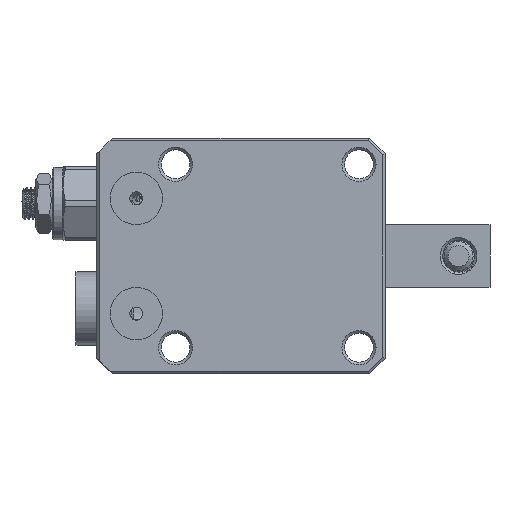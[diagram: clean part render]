
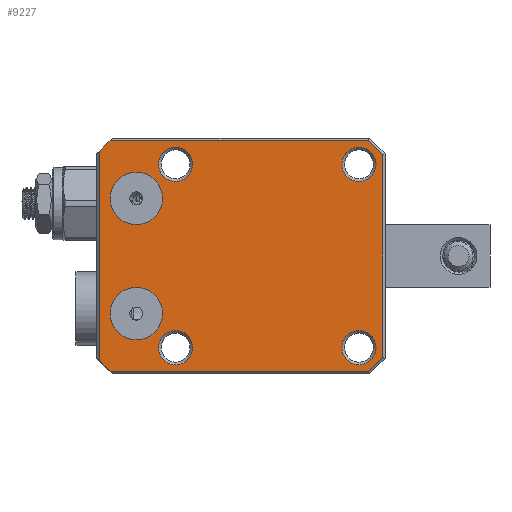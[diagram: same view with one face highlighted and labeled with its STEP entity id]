
A CAD part, front view. The second image highlights one B-rep face of the part: STEP entity #9227.
In plain terms, the highlighted planar face has unit normal (0, -1, 0).
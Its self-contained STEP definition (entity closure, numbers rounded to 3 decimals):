
#662=FACE_BOUND('',#1518,.T.);
#663=FACE_BOUND('',#1519,.T.);
#664=FACE_BOUND('',#1520,.T.);
#665=FACE_BOUND('',#1521,.T.);
#666=FACE_BOUND('',#1522,.T.);
#667=FACE_BOUND('',#1523,.T.);
#752=PLANE('',#10066);
#961=FACE_OUTER_BOUND('',#1517,.T.);
#1517=EDGE_LOOP('',(#6482,#6483,#6484,#6485,#6486,#6487,#6488,#6489));
#1518=EDGE_LOOP('',(#6490));
#1519=EDGE_LOOP('',(#6491));
#1520=EDGE_LOOP('',(#6492));
#1521=EDGE_LOOP('',(#6493));
#1522=EDGE_LOOP('',(#6494));
#1523=EDGE_LOOP('',(#6495));
#2137=LINE('',#14196,#2749);
#2142=LINE('',#14206,#2754);
#2165=LINE('',#14259,#2777);
#2184=LINE('',#14299,#2796);
#2185=LINE('',#14301,#2797);
#2186=LINE('',#14302,#2798);
#2187=LINE('',#14303,#2799);
#2188=LINE('',#14304,#2800);
#2749=VECTOR('',#11263,1000.);
#2754=VECTOR('',#11272,1000.);
#2777=VECTOR('',#11321,1000.);
#2796=VECTOR('',#11354,1000.);
#2797=VECTOR('',#11355,1000.);
#2798=VECTOR('',#11356,1000.);
#2799=VECTOR('',#11357,1000.);
#2800=VECTOR('',#11358,1000.);
#3322=CIRCLE('',#9982,5.);
#3324=CIRCLE('',#9985,5.);
#3326=CIRCLE('',#9988,3.25);
#3328=CIRCLE('',#9991,3.25);
#3330=CIRCLE('',#9994,3.25);
#3333=CIRCLE('',#9998,3.25);
#3811=VERTEX_POINT('',#13842);
#3813=VERTEX_POINT('',#13848);
#3816=VERTEX_POINT('',#13855);
#3817=VERTEX_POINT('',#13860);
#3820=VERTEX_POINT('',#13867);
#3823=VERTEX_POINT('',#13875);
#3880=VERTEX_POINT('',#14188);
#3883=VERTEX_POINT('',#14194);
#3885=VERTEX_POINT('',#14202);
#3886=VERTEX_POINT('',#14204);
#3903=VERTEX_POINT('',#14258);
#3916=VERTEX_POINT('',#14297);
#3917=VERTEX_POINT('',#14298);
#3918=VERTEX_POINT('',#14300);
#4755=EDGE_CURVE('',#3811,#3811,#3322,.T.);
#4758=EDGE_CURVE('',#3813,#3813,#3324,.T.);
#4761=EDGE_CURVE('',#3816,#3816,#3326,.T.);
#4764=EDGE_CURVE('',#3817,#3817,#3328,.T.);
#4767=EDGE_CURVE('',#3820,#3820,#3330,.T.);
#4771=EDGE_CURVE('',#3823,#3823,#3333,.T.);
#4859=EDGE_CURVE('',#3880,#3883,#2137,.T.);
#4864=EDGE_CURVE('',#3886,#3885,#2142,.T.);
#4890=EDGE_CURVE('',#3903,#3886,#2165,.T.);
#4910=EDGE_CURVE('',#3916,#3917,#2184,.T.);
#4911=EDGE_CURVE('',#3917,#3918,#2185,.T.);
#4912=EDGE_CURVE('',#3918,#3880,#2186,.T.);
#4913=EDGE_CURVE('',#3883,#3885,#2187,.T.);
#4914=EDGE_CURVE('',#3903,#3916,#2188,.T.);
#6482=ORIENTED_EDGE('',*,*,#4910,.T.);
#6483=ORIENTED_EDGE('',*,*,#4911,.T.);
#6484=ORIENTED_EDGE('',*,*,#4912,.T.);
#6485=ORIENTED_EDGE('',*,*,#4859,.T.);
#6486=ORIENTED_EDGE('',*,*,#4913,.T.);
#6487=ORIENTED_EDGE('',*,*,#4864,.F.);
#6488=ORIENTED_EDGE('',*,*,#4890,.F.);
#6489=ORIENTED_EDGE('',*,*,#4914,.T.);
#6490=ORIENTED_EDGE('',*,*,#4755,.T.);
#6491=ORIENTED_EDGE('',*,*,#4758,.T.);
#6492=ORIENTED_EDGE('',*,*,#4761,.T.);
#6493=ORIENTED_EDGE('',*,*,#4764,.T.);
#6494=ORIENTED_EDGE('',*,*,#4767,.T.);
#6495=ORIENTED_EDGE('',*,*,#4771,.T.);
#9227=ADVANCED_FACE('',(#961,#662,#663,#664,#665,#666,#667),#752,.T.);
#9982=AXIS2_PLACEMENT_3D('',#13844,#11076,#11077);
#9985=AXIS2_PLACEMENT_3D('',#13850,#11083,#11084);
#9988=AXIS2_PLACEMENT_3D('',#13857,#11090,#11091);
#9991=AXIS2_PLACEMENT_3D('',#13862,#11097,#11098);
#9994=AXIS2_PLACEMENT_3D('',#13869,#11104,#11105);
#9998=AXIS2_PLACEMENT_3D('',#13877,#11113,#11114);
#10066=AXIS2_PLACEMENT_3D('',#14296,#11352,#11353);
#11076=DIRECTION('center_axis',(0.,1.,0.));
#11077=DIRECTION('ref_axis',(0.,0.,-1.));
#11083=DIRECTION('center_axis',(0.,1.,0.));
#11084=DIRECTION('ref_axis',(0.,0.,-1.));
#11090=DIRECTION('center_axis',(0.,1.,0.));
#11091=DIRECTION('ref_axis',(0.,0.,-1.));
#11097=DIRECTION('center_axis',(0.,1.,0.));
#11098=DIRECTION('ref_axis',(0.,0.,-1.));
#11104=DIRECTION('center_axis',(0.,1.,0.));
#11105=DIRECTION('ref_axis',(0.,0.,-1.));
#11113=DIRECTION('center_axis',(0.,1.,0.));
#11114=DIRECTION('ref_axis',(0.,0.,-1.));
#11263=DIRECTION('',(-0.707,0.,-0.707));
#11272=DIRECTION('',(-0.707,0.,0.707));
#11321=DIRECTION('',(-1.,0.,0.));
#11352=DIRECTION('center_axis',(0.,-1.,0.));
#11353=DIRECTION('ref_axis',(0.,0.,-1.));
#11354=DIRECTION('',(0.,0.,1.));
#11355=DIRECTION('',(-0.707,0.,0.707));
#11356=DIRECTION('',(-1.,0.,0.));
#11357=DIRECTION('',(0.,0.,-1.));
#11358=DIRECTION('',(0.707,0.,0.707));
#13842=CARTESIAN_POINT('',(438.13,64.989,16.));
#13844=CARTESIAN_POINT('Origin',(438.13,64.989,11.));
#13848=CARTESIAN_POINT('',(438.13,64.989,-6.));
#13850=CARTESIAN_POINT('Origin',(438.13,64.989,-11.));
#13855=CARTESIAN_POINT('',(480.63,64.989,-14.25));
#13857=CARTESIAN_POINT('Origin',(480.63,64.989,-17.5));
#13860=CARTESIAN_POINT('',(445.63,64.989,-14.25));
#13862=CARTESIAN_POINT('Origin',(445.63,64.989,-17.5));
#13867=CARTESIAN_POINT('',(445.63,64.989,20.75));
#13869=CARTESIAN_POINT('Origin',(445.63,64.989,17.5));
#13875=CARTESIAN_POINT('',(480.63,64.989,20.75));
#13877=CARTESIAN_POINT('Origin',(480.63,64.989,17.5));
#14188=CARTESIAN_POINT('',(433.13,64.989,22.));
#14194=CARTESIAN_POINT('',(431.13,64.989,20.));
#14196=CARTESIAN_POINT('',(432.13,64.989,21.));
#14202=CARTESIAN_POINT('',(431.13,64.989,-20.));
#14204=CARTESIAN_POINT('',(433.13,64.989,-22.));
#14206=CARTESIAN_POINT('',(432.13,64.989,-21.));
#14258=CARTESIAN_POINT('',(482.423,64.989,-22.));
#14259=CARTESIAN_POINT('',(457.88,64.989,-22.));
#14296=CARTESIAN_POINT('Origin',(431.13,64.989,22.));
#14297=CARTESIAN_POINT('',(485.13,64.989,-19.293));
#14298=CARTESIAN_POINT('',(485.13,64.989,19.293));
#14299=CARTESIAN_POINT('',(485.13,64.989,0.));
#14300=CARTESIAN_POINT('',(482.423,64.989,22.));
#14301=CARTESIAN_POINT('',(485.13,64.989,19.293));
#14302=CARTESIAN_POINT('',(458.13,64.989,22.));
#14303=CARTESIAN_POINT('',(431.13,64.989,0.));
#14304=CARTESIAN_POINT('',(482.423,64.989,-22.));
